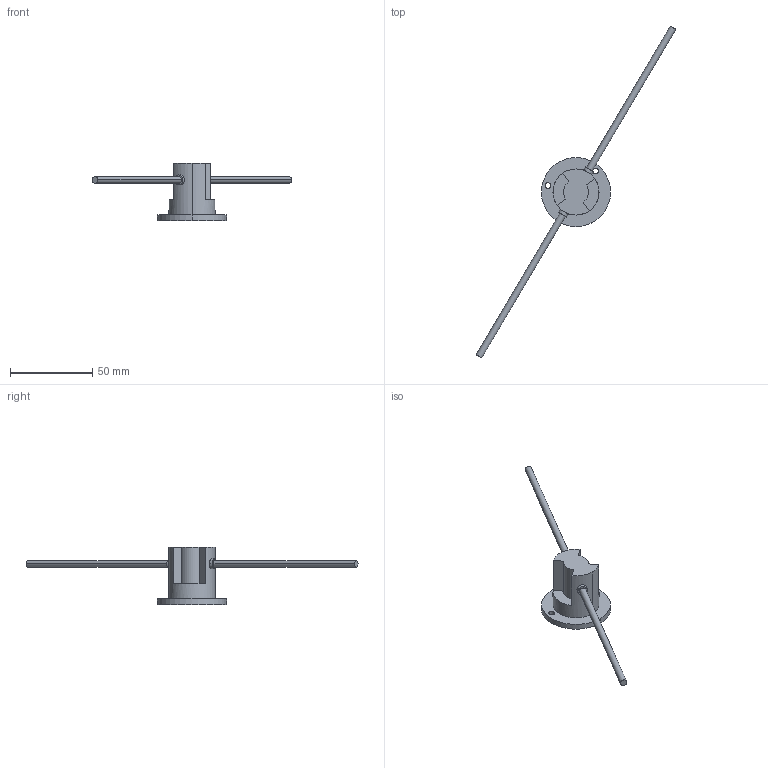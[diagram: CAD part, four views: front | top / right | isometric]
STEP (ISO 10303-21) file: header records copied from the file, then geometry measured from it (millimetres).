
FILE_DESCRIPTION (( 'STEP AP203' ), '1' );
FILE_NAME ('FU-30PRN.STEP', '2016-06-21T01:08:11', ( '' ), ( '' ), 'SwSTEP 2.0', 'SolidWorks 2014', '' );
FILE_SCHEMA (( 'CONFIG_CONTROL_DESIGN' ));
Length unit declared in the file: metre
Products named in the file (1): FU-30PRN
Bounding box: 121.38 x 201.82 x 34.7 mm (x, y, z)
Volume: 15522 mm3; surface area: 10104.5 mm2
Topology: 3 solids, 3 shells, 51 faces, 117 edges, 78 vertices
Faces by surface type: cylinder 33, plane 18
Entity records: 1562 total; most frequent: DIRECTION 291, CARTESIAN_POINT 247, ORIENTED_EDGE 234, AXIS2_PLACEMENT_3D 122, EDGE_CURVE 117, VERTEX_POINT 78, CIRCLE 70, EDGE_LOOP 61
